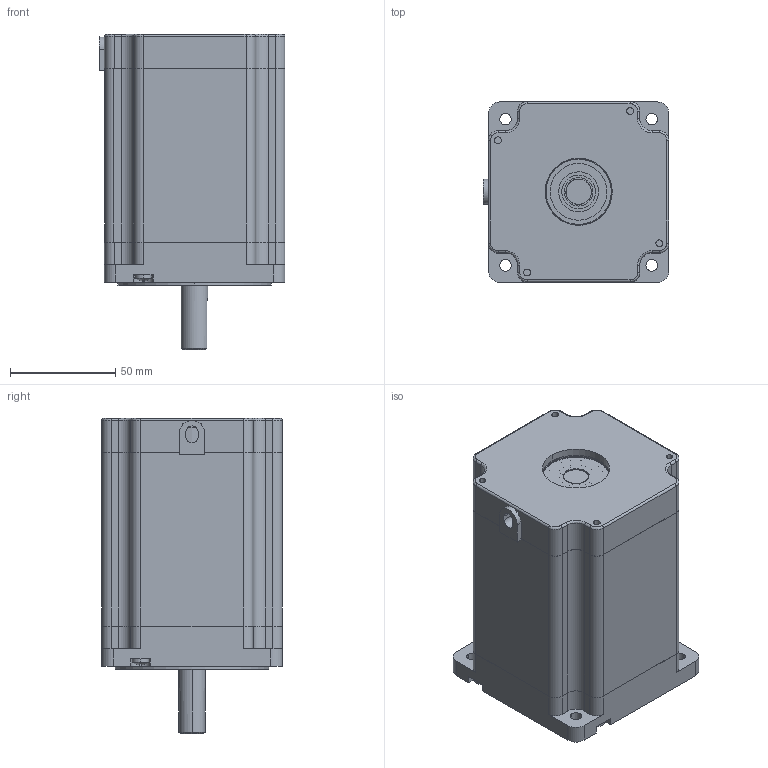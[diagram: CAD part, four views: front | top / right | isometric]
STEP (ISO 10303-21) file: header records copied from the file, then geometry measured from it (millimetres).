
FILE_DESCRIPTION (( 'STEP AP203' ), '1' );
FILE_NAME ('YK86HB118-06A.STEP', '2018-05-29T10:31:59', ( 'PC' ), ( '' ), 'SwSTEP 2.0', 'SolidWorks 2014', '' );
FILE_SCHEMA (( 'CONFIG_CONTROL_DESIGN' ));
Length unit declared in the file: millimetre
Products named in the file (11): 86砎々菜; 86ヶ裔; 粣創杶; 粣創1; 86挡圈; 86綴裔; YK86HB118-06A; 粣創2; 86隅赽; M4.0蹟佪; 86蛌赽
Assembly tree (13 placements, depth 2):
  YK86HB118-06A
    86隅赽
    86ヶ裔
    86綴裔
    86蛌赽
    粣創1
    粣創2
    86砎々菜
    86挡圈
    M4.0蹟佪  x4
    粣創杶
Bounding box: 88.4 x 85.9 x 150 mm (x, y, z)
Volume: 491112.2 mm3; surface area: 135057.6 mm2
Topology: 13 solids, 18 shells, 1542 faces, 4215 edges, 2770 vertices
Faces by surface type: plane 1281, cylinder 196, bspline 50, cone 15
Entity records: 49004 total; most frequent: CARTESIAN_POINT 10464, ORIENTED_EDGE 8030, DIRECTION 7235, EDGE_CURVE 4023, VECTOR 3489, LINE 3489, VERTEX_POINT 2671, AXIS2_PLACEMENT_3D 1873
